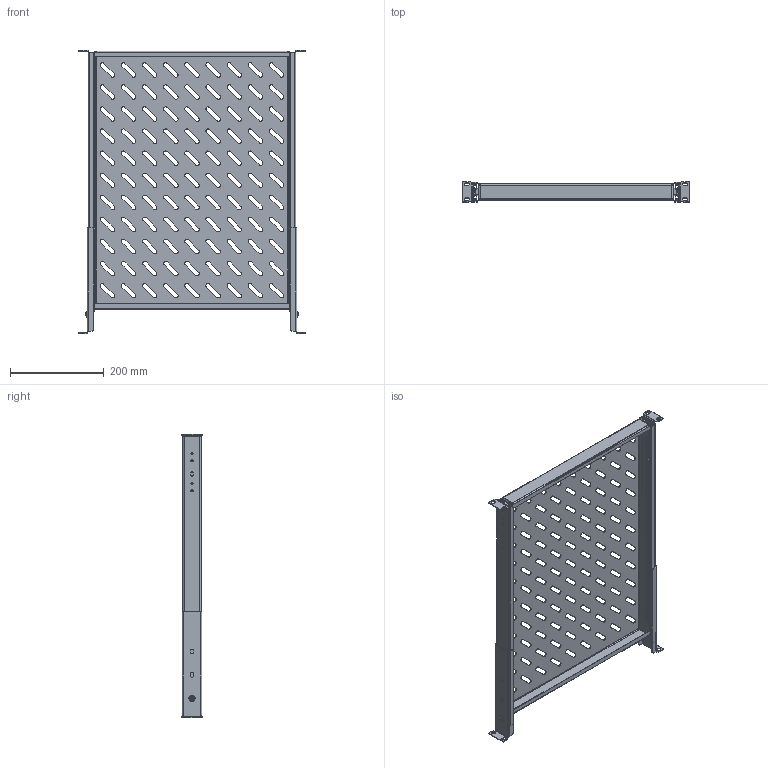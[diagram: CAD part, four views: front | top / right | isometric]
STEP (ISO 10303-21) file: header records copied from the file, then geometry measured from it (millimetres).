
FILE_DESCRIPTION (( 'STEP AP214' ), '1' );
FILE_NAME ('SH 48.55 IÌ Ïîëêà 19'''' âûäâèæíàÿ (600 ìì.).STEP', '2022-08-17T13:11:16', ( '' ), ( '' ), 'SwSTEP 2.0', 'SolidWorks 2018', '' );
FILE_SCHEMA (( 'AUTOMOTIVE_DESIGN' ));
Length unit declared in the file: millimetre
Products named in the file (1): SH 48.55 IÌ Ïîëêà 19'''' âûäâèæíàÿ (600 ìì.)
Bounding box: 482.6 x 43.6 x 602.8 mm (x, y, z)
Volume: 632231 mm3; surface area: 1010270.8 mm2
Topology: 15 solids, 15 shells, 1285 faces, 3365 edges, 2096 vertices
Faces by surface type: plane 688, cylinder 573, cone 8, torus 8, sphere 4, bspline 4
Entity records: 54328 total; most frequent: DIRECTION 7099, CARTESIAN_POINT 6971, ORIENTED_EDGE 6722, EDGE_CURVE 3361, AXIS2_PLACEMENT_3D 2464, VECTOR 2171, LINE 2171, VERTEX_POINT 2096
